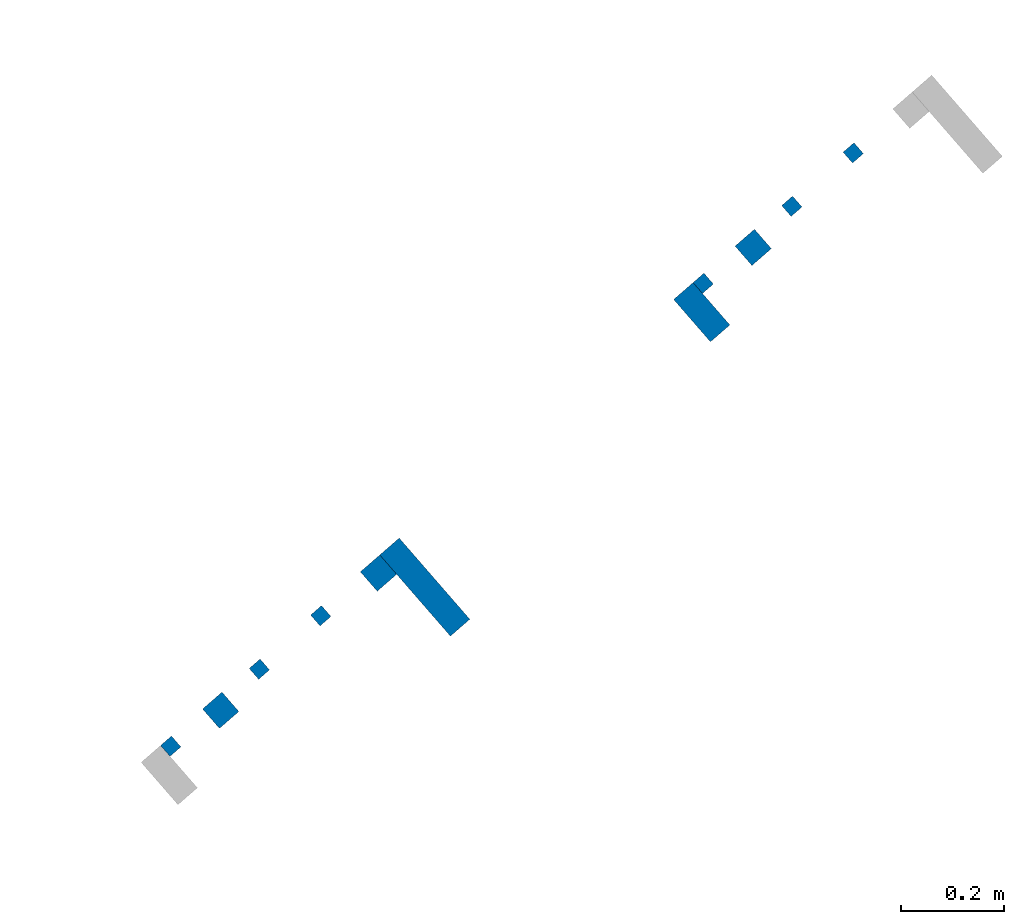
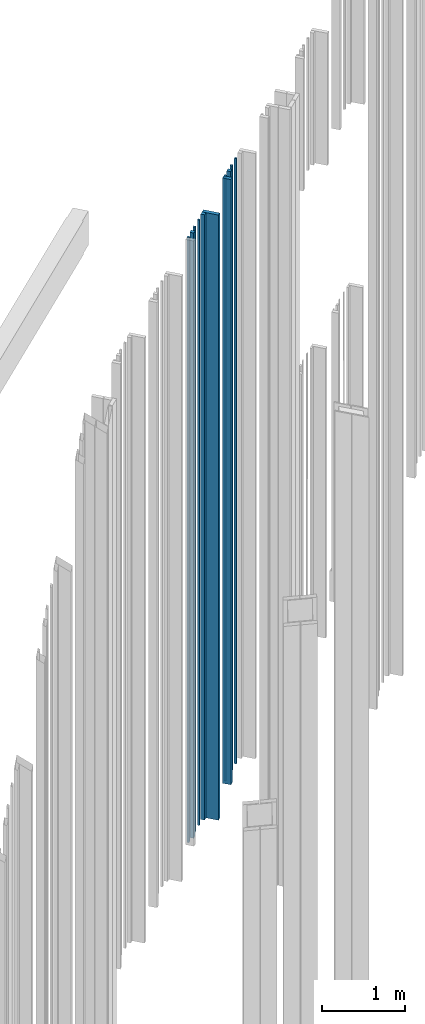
# One storey, part 252 of 390: 11 walls.
"""IFC2X3 building model written with IfcOpenShell, lengths in millimetres."""

from ifc_helpers import new_model, entity, si_unit, converted_unit, derived_unit, money_unit, direction, frame, origin_with_axes, place, context, subcontext, project, spatial, faceted_brep, material, type_object, element, save


model = new_model("IFC2X3")

# Units and contexts
model_context = context("Model", 3, precision=1e-05, world=origin_with_axes(), true_north=direction((0.0, 1.0)))
body_context = subcontext(model_context, "Body", "Model", "MODEL_VIEW")
ifc_project = project(units=[si_unit("LENGTHUNIT", "METRE", prefix="MILLI"), si_unit("AREAUNIT", "SQUARE_METRE"), si_unit("VOLUMEUNIT", "CUBIC_METRE"), converted_unit("PLANEANGLEUNIT", "DEGREE", entity("IfcPlaneAngleMeasure", 0.0174532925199), si_unit("PLANEANGLEUNIT", "RADIAN"), dimensions=[0, 0, 0, 0, 0, 0, 0]), si_unit("SOLIDANGLEUNIT", "STERADIAN"), money_unit("EUR"), converted_unit("TIMEUNIT", "Year", entity("IfcTimeMeasure", 31556926.0), si_unit("TIMEUNIT", "SECOND"), dimensions=[0, 0, 1, 0, 0, 0, 0]), si_unit("MASSUNIT", "GRAM", prefix="KILO"), si_unit("THERMODYNAMICTEMPERATUREUNIT", "DEGREE_CELSIUS"), si_unit("LUMINOUSINTENSITYUNIT", "LUMEN"), si_unit("ENERGYUNIT", "JOULE", prefix="MEGA"), derived_unit("THERMALCONDUCTANCEUNIT", [(si_unit("POWERUNIT", "WATT"), 1), (si_unit("LENGTHUNIT", "METRE"), -1), (si_unit("THERMODYNAMICTEMPERATUREUNIT", "KELVIN"), -1)]), derived_unit("SPECIFICHEATCAPACITYUNIT", [(si_unit("ENERGYUNIT", "JOULE"), 1), (si_unit("MASSUNIT", "GRAM", prefix="KILO"), -1), (si_unit("THERMODYNAMICTEMPERATUREUNIT", "KELVIN"), -1)]), derived_unit("MASSDENSITYUNIT", [(si_unit("MASSUNIT", "GRAM", prefix="KILO"), 1), (si_unit("VOLUMEUNIT", "CUBIC_METRE"), -1)])], contexts=[model_context])

# Site, building, storey
site_placement = place(None, origin_with_axes())
site = spatial("IfcSite", under=ifc_project, at=site_placement, Name="Site", CompositionType="ELEMENT")
building_placement = place(site_placement, origin_with_axes())
building = spatial("IfcBuilding", under=site, at=building_placement, Name="Building", CompositionType="ELEMENT")
storey_placement = place(building_placement, origin_with_axes())
storey = spatial("IfcBuildingStorey", under=building, at=storey_placement, Name="1 korrus", CompositionType="ELEMENT", Elevation=0.0)

# Walls
ifc_material = material(Name="Site specified")
wall_type = type_object("IfcWallType", Name="Puitfassaadi ribistik", PredefinedType="NOTDEFINED")
wall_1_placement = place(storey_placement, frame((161932.61623, 85396.4923632, 935.000018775), z_axis=(0.0, 0.0, 1.0), x_axis=(-0.754709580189, -0.65605902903, 0.0)))
element("IfcWall", 1, at=wall_1_placement, inside=storey, type_object=wall_type, material=ifc_material, Name="Site specified", context=body_context, shape_type="Brep", body=[
    faceted_brep([(-25.0, -25.0, 8929.99998122), (-25.0, -25.0, 0.0), (25.0, -25.0, 0.0), (25.0, -25.0, 8929.99998122), (-25.0, 25.0, 8929.99998122), (-25.0, 25.0, 0.0), (25.0, 25.0, 0.0), (25.0, 25.0, 8929.99998122)], [[[0, 1, 2, 3]], [[4, 5, 1, 0]], [[2, 1, 5, 6]], [[3, 2, 6, 7]], [[4, 0, 3, 7]], [[7, 6, 5, 4]]]),
])
wall_2_placement = place(storey_placement, frame((162007.662925, 85476.3046027, 935.000018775), z_axis=(0.0, 0.0, 1.0), x_axis=(-0.754709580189, -0.65605902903, 0.0)))
element("IfcWall", 2, at=wall_2_placement, inside=storey, type_object=wall_type, material=ifc_material, Name="Site specified", context=body_context, shape_type="Brep", body=[
    faceted_brep([(-14.0, -14.0, 8929.99998122), (-14.0, -14.0, 0.0), (14.0, -14.0, 0.0), (14.0, -14.0, 8929.99998122), (-14.0, 14.0, 8929.99998122), (-14.0, 14.0, 0.0), (14.0, 14.0, 0.0), (14.0, 14.0, 8929.99998122)], [[[0, 1, 2, 3]], [[4, 5, 1, 0]], [[2, 1, 5, 6]], [[3, 2, 6, 7]], [[4, 0, 3, 7]], [[7, 6, 5, 4]]]),
])
wall_3_placement = place(storey_placement, frame((161832.725857, 85270.571104, 935.000018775), z_axis=(0.0, 0.0, 1.0), x_axis=(-0.754709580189, -0.65605902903, 0.0)))
element("IfcWall", 3, at=wall_3_placement, inside=storey, type_object=wall_type, material=ifc_material, Name="Site specified", context=body_context, shape_type="Brep", body=[
    faceted_brep([(-25.0, -54.5, 8929.99998122), (-25.0, -54.5, 0.0), (25.0, -54.5, 0.0), (25.0, -54.5, 8929.99998122), (-25.0, 54.5, 8929.99998122), (-25.0, 54.5, 0.0), (25.0, 54.5, 0.0), (25.0, 54.5, 8929.99998122)], [[[0, 1, 2, 3]], [[4, 5, 1, 0]], [[2, 1, 5, 6]], [[3, 2, 6, 7]], [[4, 0, 3, 7]], [[7, 6, 5, 4]]]),
])
wall_4_placement = place(storey_placement, frame((161835.58914, 85326.7231441, 935.000018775), z_axis=(0.0, 0.0, 1.0), x_axis=(-0.754709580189, -0.65605902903, 0.0)))
element("IfcWall", 4, at=wall_4_placement, inside=storey, type_object=wall_type, material=ifc_material, Name="Site specified", context=body_context, shape_type="Brep", body=[
    faceted_brep([(-14.0, -14.0, 8929.99998122), (-14.0, -14.0, 0.0), (14.0, -14.0, 0.0), (14.0, -14.0, 8929.99998122), (-14.0, 14.0, 8929.99998122), (-14.0, 14.0, 0.0), (14.0, 14.0, 0.0), (14.0, 14.0, 8929.99998122)], [[[0, 1, 2, 3]], [[4, 5, 1, 0]], [[2, 1, 5, 6]], [[3, 2, 6, 7]], [[4, 0, 3, 7]], [[7, 6, 5, 4]]]),
])
wall_5_placement = place(storey_placement, frame((161294.968366, 84736.854999, 935.000018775), z_axis=(0.0, 0.0, 1.0), x_axis=(-0.754709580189, -0.65605902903, 0.0)))
element("IfcWall", 5, at=wall_5_placement, inside=storey, type_object=wall_type, material=ifc_material, Name="Site specified", context=body_context, shape_type="Brep", body=[
    faceted_brep([(-25.0, -104.5, 8929.99998122), (-25.0, -104.5, 0.0), (25.0, -104.5, 0.0), (25.0, -104.5, 8929.99998122), (-25.0, 104.5, 8929.99998122), (-25.0, 104.5, 0.0), (25.0, 104.5, 0.0), (25.0, 104.5, 8929.99998122)], [[[0, 1, 2, 3]], [[4, 5, 1, 0]], [[2, 1, 5, 6]], [[3, 2, 6, 7]], [[4, 0, 3, 7]], [[7, 6, 5, 4]]]),
])
for number, where, z_axis, x_axis, name in (
    (6, (162126.907038, 85579.9619293, 935.000018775), (0.0, 0.0, 1.0), (-0.754709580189, -0.65605902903, 0.0), "Site specified"),
    (7, (161092.954913, 84681.1610595, 935.000018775), (0.0, 0.0, 1.0), (-0.754709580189, -0.65605902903, 0.0), "Site specified"),
    (8, (160973.7108, 84577.5037329, 935.000018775), (0.0, 0.0, 1.0), (-0.754709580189, -0.65605902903, 0.0), "Site specified"),
):
    element("IfcWall", number, at=place(storey_placement, frame(where, z_axis=z_axis, x_axis=x_axis)), inside=storey, type_object=wall_type, material=ifc_material, Name=name, context=body_context, shape_type="Brep", body=[
        faceted_brep([(-14.0, -14.0, 8929.99998122), (-14.0, -14.0, 0.0), (14.0, -14.0, 0.0), (14.0, -14.0, 8929.99998122), (-14.0, 14.0, 8929.99998122), (-14.0, 14.0, 0.0), (14.0, 14.0, 0.0), (14.0, 14.0, 8929.99998122)], [[[0, 1, 2, 3]], [[4, 5, 1, 0]], [[2, 1, 5, 6]], [[3, 2, 6, 7]], [[4, 0, 3, 7]], [[7, 6, 5, 4]]]),
    ])
for number, where, z_axis, x_axis, name in (
    (9, (160898.664105, 84497.6914934, 935.000018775), (0.0, 0.0, 1.0), (-0.754709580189, -0.65605902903, 0.0), "Site specified"),
    (10, (161205.076194, 84764.0514592, 935.000018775), (0.0, 0.0, 1.0), (-0.754709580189, -0.65605902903, 0.0), "Site specified"),
):
    element("IfcWall", number, at=place(storey_placement, frame(where, z_axis=z_axis, x_axis=x_axis)), inside=storey, type_object=wall_type, material=ifc_material, Name=name, context=body_context, shape_type="Brep", body=[
        faceted_brep([(-25.0, -25.0, 8929.99998122), (-25.0, -25.0, 0.0), (25.0, -25.0, 0.0), (25.0, -25.0, 8929.99998122), (-25.0, 25.0, 8929.99998122), (-25.0, 25.0, 0.0), (25.0, 25.0, 0.0), (25.0, 25.0, 8929.99998122)], [[[0, 1, 2, 3]], [[4, 5, 1, 0]], [[2, 1, 5, 6]], [[3, 2, 6, 7]], [[4, 0, 3, 7]], [[7, 6, 5, 4]]]),
    ])
wall_6_placement = place(storey_placement, frame((160801.637015, 84427.9222743, 935.000018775), z_axis=(0.0, 0.0, 1.0), x_axis=(-0.754709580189, -0.65605902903, 0.0)))
element("IfcWall", 11, at=wall_6_placement, inside=storey, type_object=wall_type, material=ifc_material, Name="Site specified", context=body_context, shape_type="Brep", body=[
    faceted_brep([(-14.0, -14.0, 8929.99998122), (-14.0, -14.0, 0.0), (14.0, -14.0, 0.0), (14.0, -14.0, 8929.99998122), (-14.0, 14.0, 8929.99998122), (-14.0, 14.0, 0.0), (14.0, 14.0, 0.0), (14.0, 14.0, 8929.99998122)], [[[0, 1, 2, 3]], [[4, 5, 1, 0]], [[2, 1, 5, 6]], [[3, 2, 6, 7]], [[4, 0, 3, 7]], [[7, 6, 5, 4]]]),
])

save(model, "model.ifc")
